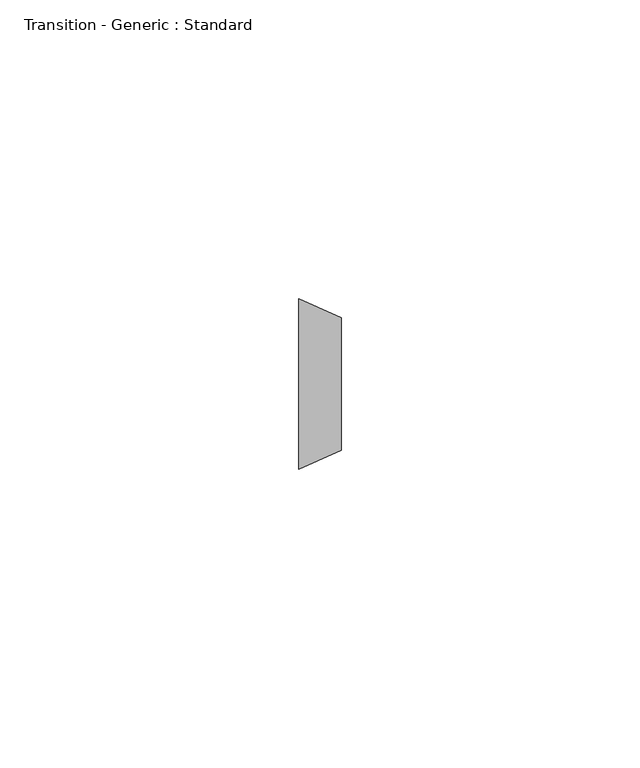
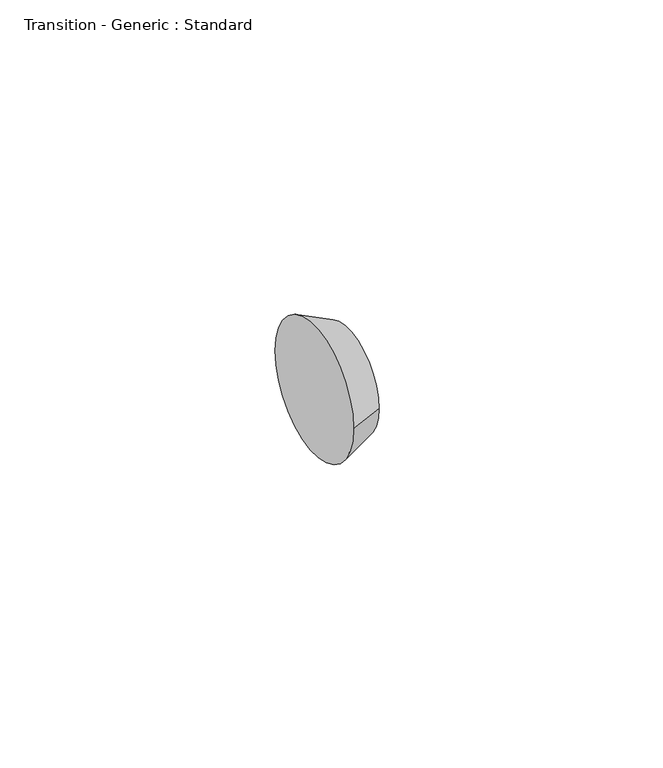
"""IFC4 building model written with IfcOpenShell, lengths in millimetres: pipe fitting geometry, Transition - Generic : Standard."""

from ifc_helpers import new_model, si_unit, frame, origin, place, context, project, spatial, polyline, circle_curve, source, transform, mapped, element, save
from ifc_brep_helpers import plane_surface, revolved_surface, advanced_brep


def transition_generic_standard_1e832544(model_context):
    return source(origin(), model_context, "Body", "AdvancedBrep", [
        advanced_brep(
        [(7.14375, -11.1125, 0.0), (7.14375, 11.1125, 0.0), (0.0, -14.2875, 0.0), (0.0, 14.2875, 0.0)],
        [
            (0, 1, circle_curve(frame((7.14375, 0.0, 0.0), z_axis=(1.0, 0.0, 0.0), x_axis=(0.0, -1.0, 0.0)), 11.1125)),
            (1, 0, circle_curve(frame((7.14375, 0.0, 0.0), z_axis=(1.0, 0.0, 0.0), x_axis=(0.0, 1.0, 0.0)), 11.1125)),
            (2, 3, circle_curve(frame((0.0, 0.0, 0.0), z_axis=(-1.0, 0.0, 0.0), x_axis=(0.0, 1.0, 0.0)), 14.2875)),
            (3, 2, circle_curve(frame((0.0, 0.0, 0.0), z_axis=(-1.0, 0.0, 0.0), x_axis=(0.0, -1.0, 0.0)), 14.2875)),
            (3, 1),
            (0, 2),
        ],
        [
            plane_surface(frame((7.14375, 0.0, 0.0), z_axis=(1.0, 0.0, 0.0), x_axis=(0.0, 0.0, -1.0))),
            plane_surface(frame((0.0, 0.0, 0.0), z_axis=(-1.0, 0.0, 0.0), x_axis=(0.0, 0.0, -1.0))),
            revolved_surface(polyline([(7.143750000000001, -11.1125, 0.0), (0.0, -14.2875, 0.0)]), (32.146875, 0.0, 0.0), (-1.0, 0.0, 0.0)),
            revolved_surface(polyline([(7.143750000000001, 11.1125, 0.0), (0.0, 14.2875, 0.0)]), (32.146875, 0.0, 0.0), (-1.0, 0.0, 0.0)),
        ],
        [
            (0, [[1, 2]]),
            (1, [[3, 4]]),
            (2, [[-4, 5, -1, 6]]),
            (3, [[-3, -6, -2, -5]]),
        ],
    ),
    ])


if __name__ == "__main__":
    model = new_model("IFC4")
    model_context = context("Model", 3, world=origin())
    ifc_project = project(units=[si_unit("LENGTHUNIT", "METRE", prefix="MILLI")], contexts=[model_context])
    site = spatial("IfcSite", under=ifc_project)
    building = spatial("IfcBuilding", under=site)
    placement = place(None, origin())
    transition_generic_standard_shape = transition_generic_standard_1e832544(model_context)
    element("IfcPipeFitting", 1, ObjectType="Transition - Generic : Standard", at=placement, inside=building, context=model_context, shape_type="MappedRepresentation", body=[
        mapped(transition_generic_standard_shape, transform((0.0, 0.0, 0.0), x_axis=(1.0, 0.0, 0.0), y_axis=(0.0, 1.0, 0.0), z_axis=(0.0, 0.0, 1.0))),
    ])
    save(model, "model.ifc")
